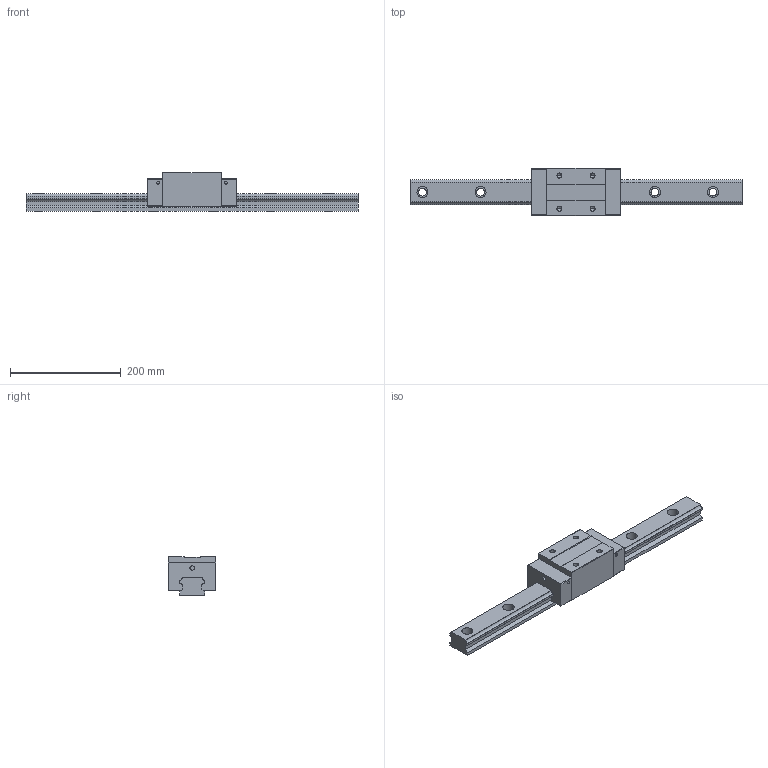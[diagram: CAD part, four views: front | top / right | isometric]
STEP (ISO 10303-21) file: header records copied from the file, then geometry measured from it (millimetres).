
FILE_DESCRIPTION (( 'STEP AP203' ), '1' );
FILE_NAME ('TRH45VL-WZ.STEP', '2024-05-17T02:54:32', ( '' ), ( '' ), 'SwSTEP 2.0', 'SolidWorks 2022', '' );
FILE_SCHEMA (( 'CONFIG_CONTROL_DESIGN' ));
Length unit declared in the file: millimetre
Products named in the file (1): TRH45VL-WZ
Bounding box: 600 x 85.5 x 70 mm (x, y, z)
Volume: 1348532.8 mm3; surface area: 172420.1 mm2
Topology: 2 solids, 2 shells, 180 faces, 472 edges, 304 vertices
Faces by surface type: plane 84, cylinder 80, cone 16
Entity records: 5607 total; most frequent: DIRECTION 994, CARTESIAN_POINT 949, ORIENTED_EDGE 928, EDGE_CURVE 464, AXIS2_PLACEMENT_3D 349, VERTEX_POINT 304, LINE 296, VECTOR 296
